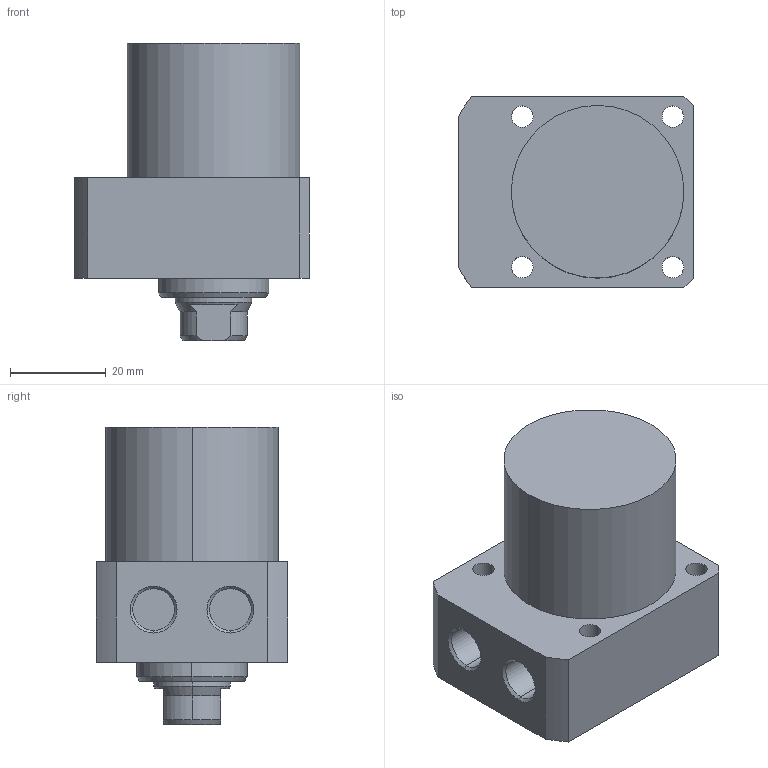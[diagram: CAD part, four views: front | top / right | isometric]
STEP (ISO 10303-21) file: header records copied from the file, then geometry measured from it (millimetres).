
FILE_DESCRIPTION (( 'STEP AP203' ), '1' );
FILE_NAME ('CLLR-036CA-020.STEP', '2019-12-20T00:28:48', ( '' ), ( '' ), 'SwSTEP 2.0', 'SolidWorks 2015', '' );
FILE_SCHEMA (( 'CONFIG_CONTROL_DESIGN' ));
Length unit declared in the file: millimetre
Products named in the file (1): CLLR-036CA-020
Bounding box: 49 x 40 x 62 mm (x, y, z)
Volume: 69204.2 mm3; surface area: 13246.5 mm2
Topology: 1 solids, 1 shells, 63 faces, 149 edges, 94 vertices
Faces by surface type: cylinder 29, plane 19, cone 15
Entity records: 1927 total; most frequent: DIRECTION 340, CARTESIAN_POINT 337, ORIENTED_EDGE 294, EDGE_CURVE 147, AXIS2_PLACEMENT_3D 137, VERTEX_POINT 94, EDGE_LOOP 79, CIRCLE 73
